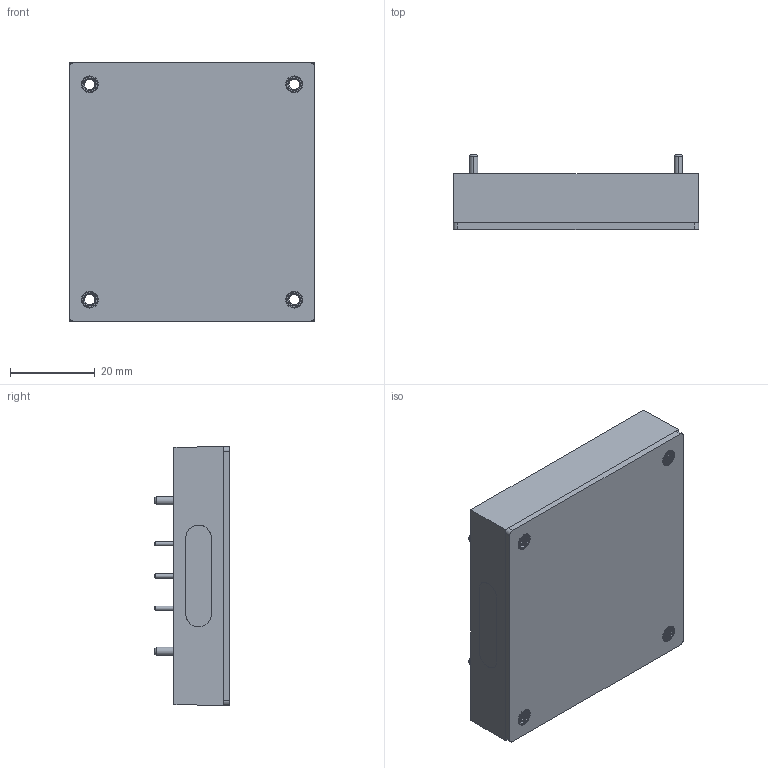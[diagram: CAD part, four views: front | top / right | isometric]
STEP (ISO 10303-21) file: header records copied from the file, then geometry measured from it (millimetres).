
FILE_DESCRIPTION (( 'STEP AP214' ), '1' );
FILE_NAME ('QSB200.STEP', '2017-08-03T12:13:22', ( '' ), ( '' ), 'SwSTEP 2.0', 'SolidWorks 2017', '' );
FILE_SCHEMA (( 'AUTOMOTIVE_DESIGN' ));
Length unit declared in the file: inch
Products named in the file (6): M3x12.6; QSB200; CASE; Pins; Case Assy; Case Baseplate
Assembly tree (8 placements, depth 3):
  QSB200
    Case Assy
      M3x12.6  x4
      Case Baseplate
    Pins
    CASE
Bounding box: 57.9 x 17.7 x 61 mm (x, y, z)
Volume: 45526.4 mm3; surface area: 30656.1 mm2
Topology: 7 solids, 7 shells, 1109 faces, 3025 edges, 2002 vertices
Faces by surface type: plane 470, cylinder 340, bspline 155, cone 144
Entity records: 32875 total; most frequent: CARTESIAN_POINT 15721, ORIENTED_EDGE 3830, DIRECTION 2911, EDGE_CURVE 1915, VERTEX_POINT 1264, LINE 1207, VECTOR 1207, AXIS2_PLACEMENT_3D 852
